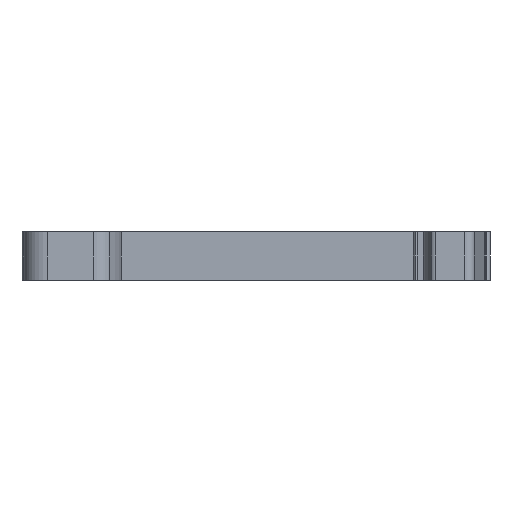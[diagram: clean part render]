
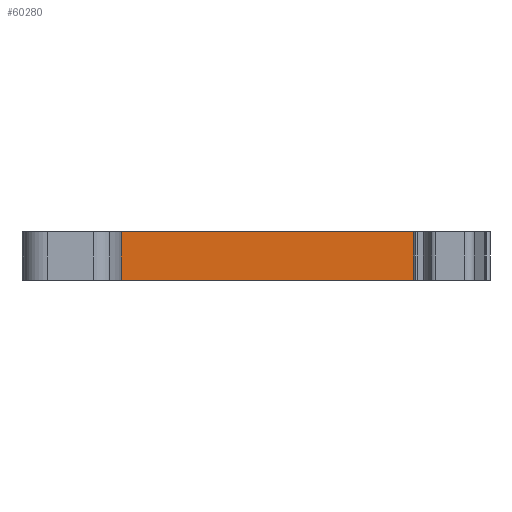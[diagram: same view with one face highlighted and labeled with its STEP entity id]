
A CAD part, front view. The second image highlights one B-rep face of the part: STEP entity #60280.
In plain terms, the highlighted planar face has unit normal (0, -1, 0).
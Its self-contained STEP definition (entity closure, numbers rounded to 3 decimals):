
#3780=CARTESIAN_POINT('',(-16.3,0.,-5.2))
;
#3790=VERTEX_POINT('',#3780);
#3820=CARTESIAN_POINT('',(2.3,0.,-5.2));
#3830=DIRECTION('',(-1.,0.,0.));
#3840=VECTOR('',#3830,1.);
#3850=LINE('',#3820,#3840);
#3860=CARTESIAN_POINT('',(15.1,0.,-5.2))
;
#3870=VERTEX_POINT('',#3860);
#3880=EDGE_CURVE('',#3870,#3790,#3850,.T.);
#16960=CARTESIAN_POINT('',(-16.3,0.,
0.));
#16970=VERTEX_POINT('',#16960);
#17000=CARTESIAN_POINT('',(-16.3,0.,0.));
#17010=DIRECTION('',(0.,0.,-1.));
#17020=VECTOR('',#17010,1.);
#17030=LINE('',#17000,#17020);
#17040=EDGE_CURVE('',#16970,#3790,#17030,.T.);
#60050=CARTESIAN_POINT('',(24.,0.,0.
));
#60060=DIRECTION('',(-0.,1.,0.));
#60070=DIRECTION('',(1.,0.,0.));
#60080=AXIS2_PLACEMENT_3D('',#60050,#60060,#60070);
#60090=PLANE('',#60080);
#60100=ORIENTED_EDGE('',*,*,#17040,.T.);
#60110=CARTESIAN_POINT('',(-4.85,0.,
0.));
#60120=DIRECTION('',(1.,0.,0.));
#60130=VECTOR('',#60120,1.);
#60140=LINE('',#60110,#60130);
#60150=CARTESIAN_POINT('',(15.1,0.,
0.));
#60160=VERTEX_POINT('',#60150);
#60170=EDGE_CURVE('',#16970,#60160,#60140,.T.);
#60180=ORIENTED_EDGE('',*,*,#60170,.F.);
#60190=CARTESIAN_POINT('',(15.1,0.,0.));
#60200=DIRECTION('',(0.,0.,-1.));
#60210=VECTOR('',#60200,1.);
#60220=LINE('',#60190,#60210);
#60230=EDGE_CURVE('',#60160,#3870,#60220,.T.);
#60240=ORIENTED_EDGE('',*,*,#60230,.F.);
#60250=ORIENTED_EDGE('',*,*,#3880,.F.);
#60260=EDGE_LOOP('',(#60250,#60240,#60180,#60100));
#60270=FACE_OUTER_BOUND('',#60260,.T.);
#60280=ADVANCED_FACE('',(#60270),#60090,.F.);
